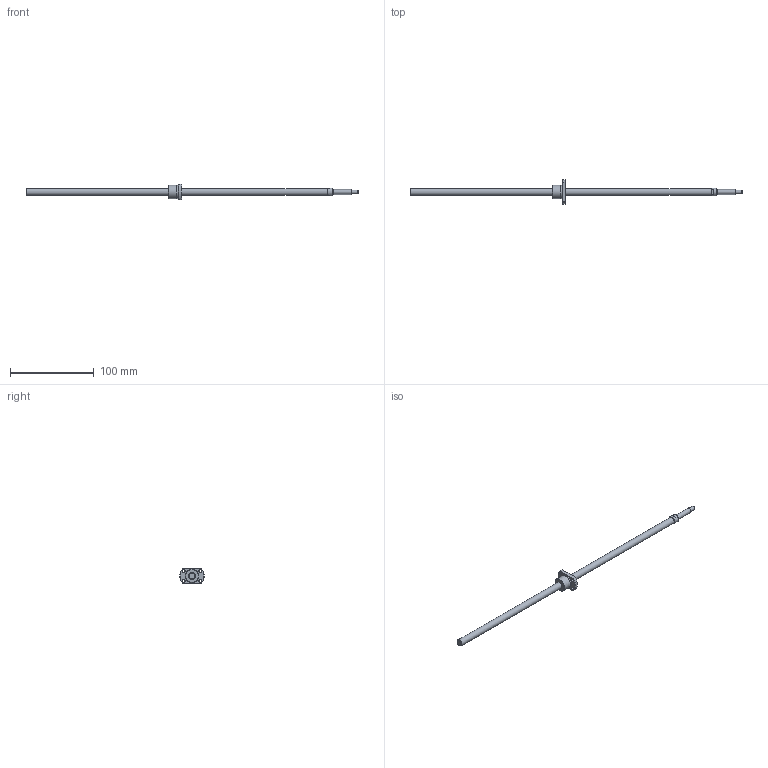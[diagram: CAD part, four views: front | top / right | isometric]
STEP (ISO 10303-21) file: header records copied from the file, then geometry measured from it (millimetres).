
FILE_DESCRIPTION(/* description */ ('STEP AP214'),/* implementation_level */ '2;1');
FILE_NAME(/* name */ 'SRT0802.5-356R397C7A0X(170Processing)',/* time_stamp */ '2026-08-04T19:59:55+02:00',/* author */ ('License CC BY-ND 4.0'),/* organization */ ('CADENAS'),/* preprocessor_version */ 'ST-DEVELOPER v20',/* originating_system */ 'PARTsolutions',/* authorisation */ ' ');
FILE_SCHEMA (('AUTOMOTIVE_DESIGN {1 0 10303 214 3 1 1}'));
Length unit declared in the file: millimetre
Products named in the file (3): SRT0802.5-356R397C7A0X(170Processing); SRT0802.5-356R430ACt7Processing38Shaft; SRT0802.5Nut
Assembly tree (2 placements, depth 2):
  SRT0802.5-356R397C7A0X(170Processing)
    SRT0802.5-356R430ACt7Processing38Shaft
    SRT0802.5Nut
Bounding box: 397 x 29 x 18 mm (x, y, z)
Volume: 22701.3 mm3; surface area: 12186 mm2
Topology: 2 solids, 2 shells, 39 faces, 88 edges, 57 vertices
Faces by surface type: plane 16, cylinder 13, cone 9, torus 1
Full cylindrical faces by diameter (mm): 3.4 x4, 4.5 x1, 6 x1, 8 x2, 9.5 x1, 15.7 x1, 16 x1
Entity records: 1075 total; most frequent: CARTESIAN_POINT 184, DIRECTION 182, ORIENTED_EDGE 132, AXIS2_PLACEMENT_3D 82, EDGE_LOOP 70, FACE_BOUND 70, EDGE_CURVE 66, VERTEX_POINT 52
